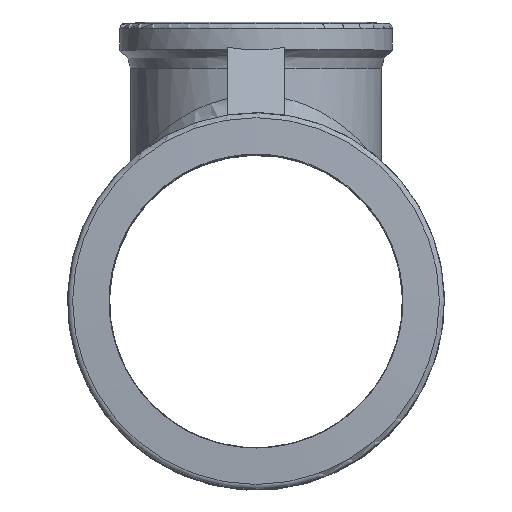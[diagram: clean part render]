
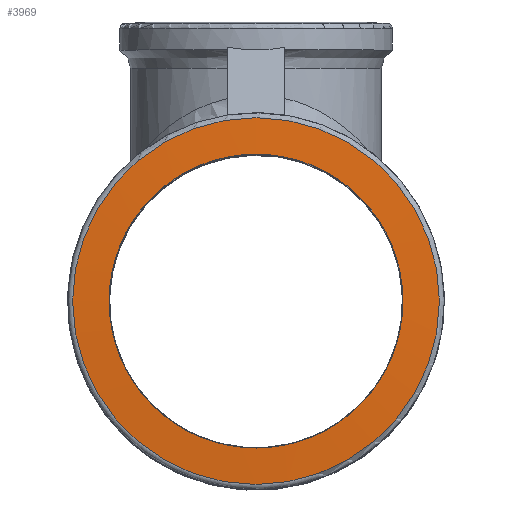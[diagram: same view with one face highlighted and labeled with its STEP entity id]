
A CAD part, top view. The second image highlights one B-rep face of the part: STEP entity #3969.
In plain terms, the highlighted conical face has half-angle 87 degrees and reference radius 32.4 mm.
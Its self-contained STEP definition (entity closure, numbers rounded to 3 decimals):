
#3935=CARTESIAN_POINT('',(28.4,0.,48.));
#3936=VERTEX_POINT('',#3935);
#3937=CARTESIAN_POINT('',(0.0,0.0,48.));
#3938=DIRECTION('',(0.0,0.0,-1.0));
#3939=DIRECTION('',(-1.0,0.0,0.0));
#3940=AXIS2_PLACEMENT_3D('',#3937,#3938,#3939);
#3941=CIRCLE('',#3940,28.4);
#3942=EDGE_CURVE('',#3936,#3936,#3941,.T.);
#3950=CARTESIAN_POINT('',(0.0,0.0,47.79));
#3951=DIRECTION('',(0.0,0.0,-1.0));
#3952=DIRECTION('',(-1.0,0.0,0.0));
#3953=AXIS2_PLACEMENT_3D('',#3950,#3951,#3952);
#3954=CONICAL_SURFACE('',#3953,32.4,87.);
#3955=ORIENTED_EDGE('',*,*,#3942,.T.);
#3956=EDGE_LOOP('',(#3955));
#3957=FACE_OUTER_BOUND('',#3956,.T.);
#3958=CARTESIAN_POINT('',(35.452,0.,47.63));
#3959=VERTEX_POINT('',#3958);
#3960=CARTESIAN_POINT('',(0.0,0.,47.63));
#3961=DIRECTION('',(0.0,0.0,-1.0));
#3962=DIRECTION('',(-1.0,0.0,0.0));
#3963=AXIS2_PLACEMENT_3D('',#3960,#3961,#3962);
#3964=CIRCLE('',#3963,35.452);
#3965=EDGE_CURVE('',#3959,#3959,#3964,.T.);
#3966=ORIENTED_EDGE('',*,*,#3965,.F.);
#3967=EDGE_LOOP('',(#3966));
#3968=FACE_BOUND('',#3967,.T.);
#3969=ADVANCED_FACE('',(#3957,#3968),#3954,.T.);
